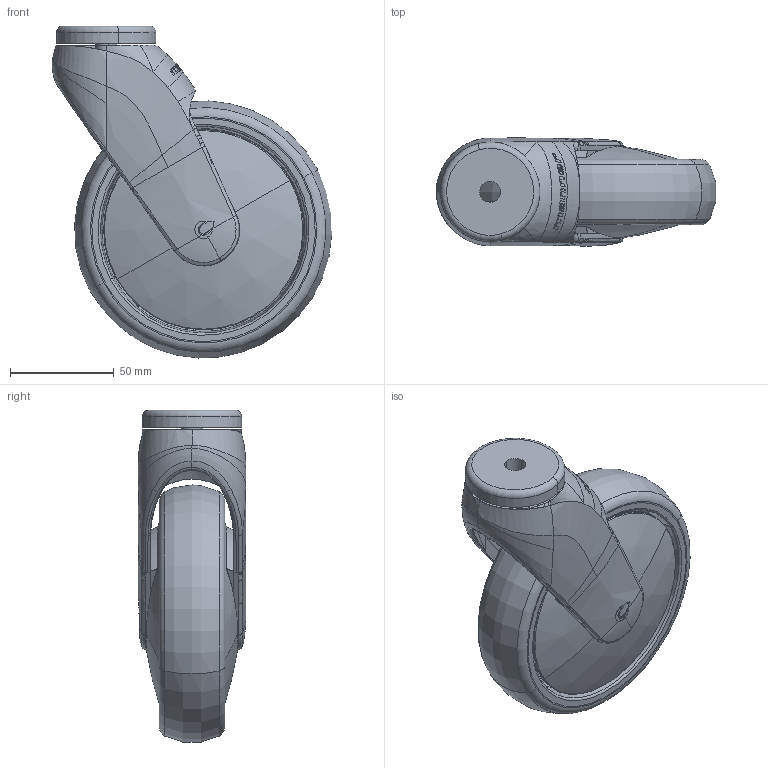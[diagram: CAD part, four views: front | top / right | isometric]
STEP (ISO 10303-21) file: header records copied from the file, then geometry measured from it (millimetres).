
FILE_DESCRIPTION (( 'STEP AP203' ), '1' );
FILE_NAME ('301636.STEP', '2010-03-18T05:23:41', ( ' ' ), ( ' ' ), 'SwSTEP 2.0', 'SolidWorks 2007', '' );
FILE_SCHEMA (( 'CONFIG_CONTROL_DESIGN' ));
Length unit declared in the file: millimetre
Products named in the file (1): 301636
Bounding box: 134.84 x 52.08 x 160.22 mm (x, y, z)
Surface area: 97633 mm2 (no closed solid volume)
Topology: 0 solids, 13 shells, 355 faces, 1268 edges, 877 vertices
Faces by surface type: bspline 207, plane 56, torus 39, cylinder 25, cone 22, sphere 6
Entity records: 92889 total; most frequent: CARTESIAN_POINT 84674, ORIENTED_EDGE 2112, EDGE_CURVE 1261, VERTEX_POINT 877, B_SPLINE_CURVE_WITH_KNOTS 854, DIRECTION 836, EDGE_LOOP 381, ADVANCED_FACE 355
